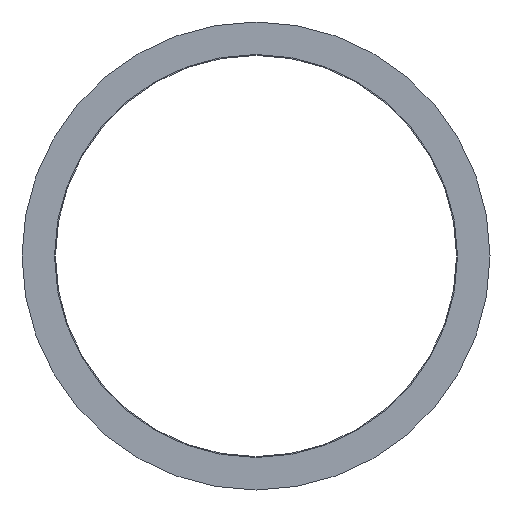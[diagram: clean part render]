
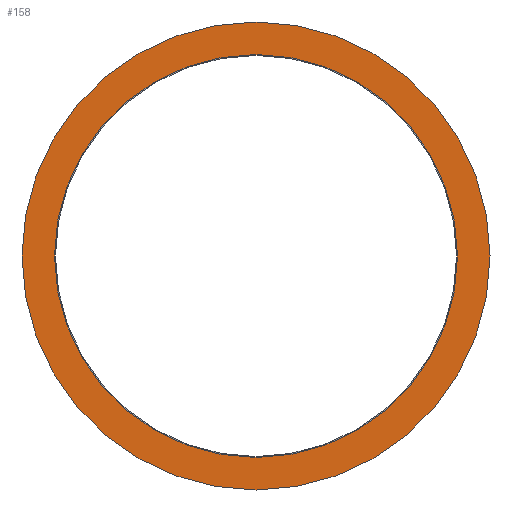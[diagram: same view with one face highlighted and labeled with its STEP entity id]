
A CAD part, left-side view. The second image highlights one B-rep face of the part: STEP entity #158.
In plain terms, the highlighted planar face has unit normal (-1, 0, 0).
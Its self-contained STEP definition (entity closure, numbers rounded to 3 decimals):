
#1 = CARTESIAN_POINT ( 'NONE',  ( -3.767, -0.028, 0. ) ) ;
#8 = DIRECTION ( 'NONE',  ( 0., 0., -1. ) ) ;
#13 = EDGE_CURVE ( 'NONE', #39, #128, #291, .T. ) ;
#18 = DIRECTION ( 'NONE',  ( 1., 0., 0. ) ) ;
#33 = DIRECTION ( 'NONE',  ( 1., 0., 0. ) ) ;
#39 = VERTEX_POINT ( 'NONE', #201 ) ;
#51 = DIRECTION ( 'NONE',  ( 1., 0., 0. ) ) ;
#61 = AXIS2_PLACEMENT_3D ( 'NONE', #300, #33, #373 ) ;
#67 = DIRECTION ( 'NONE',  ( 1., 0., 0. ) ) ;
#68 = CARTESIAN_POINT ( 'NONE',  ( -3.767, -0.028, 0. ) ) ;
#84 = CARTESIAN_POINT ( 'NONE',  ( -3.767, -0.028, 0. ) ) ;
#90 = EDGE_CURVE ( 'NONE', #197, #105, #407, .T. ) ;
#105 = VERTEX_POINT ( 'NONE', #147 ) ;
#111 = ORIENTED_EDGE ( 'NONE', *, *, #90, .T. ) ;
#112 = FACE_OUTER_BOUND ( 'NONE', #163, .T. ) ;
#121 = EDGE_CURVE ( 'NONE', #105, #197, #302, .T. ) ;
#123 = CARTESIAN_POINT ( 'NONE',  ( -3.767, -0.028, 0. ) ) ;
#128 = VERTEX_POINT ( 'NONE', #131 ) ;
#131 = CARTESIAN_POINT ( 'NONE',  ( -3.767, -0.028, 14. ) ) ;
#133 = EDGE_CURVE ( 'NONE', #128, #39, #262, .T. ) ;
#147 = CARTESIAN_POINT ( 'NONE',  ( -3.767, -0.028, -12.055 ) ) ;
#156 = AXIS2_PLACEMENT_3D ( 'NONE', #84, #310, #178 ) ;
#158 = ADVANCED_FACE ( 'NONE', ( #399, #112 ), #288, .T. ) ;
#163 = EDGE_LOOP ( 'NONE', ( #389, #257 ) ) ;
#178 = DIRECTION ( 'NONE',  ( 0., 0., 1. ) ) ;
#197 = VERTEX_POINT ( 'NONE', #342 ) ;
#201 = CARTESIAN_POINT ( 'NONE',  ( -3.767, -0.028, -14. ) ) ;
#206 = AXIS2_PLACEMENT_3D ( 'NONE', #68, #18, #358 ) ;
#219 = ORIENTED_EDGE ( 'NONE', *, *, #121, .T. ) ;
#253 = DIRECTION ( 'NONE',  ( 0., 0., -1. ) ) ;
#257 = ORIENTED_EDGE ( 'NONE', *, *, #133, .F. ) ;
#262 = CIRCLE ( 'NONE', #206, 14. ) ;
#288 = PLANE ( 'NONE',  #156 ) ;
#291 = CIRCLE ( 'NONE', #374, 14. ) ;
#300 = CARTESIAN_POINT ( 'NONE',  ( -3.767, -0.028, 0. ) ) ;
#302 = CIRCLE ( 'NONE', #403, 12.055 ) ;
#310 = DIRECTION ( 'NONE',  ( -1., 0., 0. ) ) ;
#342 = CARTESIAN_POINT ( 'NONE',  ( -3.767, -0.028, 12.055 ) ) ;
#358 = DIRECTION ( 'NONE',  ( 0., 0., -1. ) ) ;
#373 = DIRECTION ( 'NONE',  ( 0., 0., -1. ) ) ;
#374 = AXIS2_PLACEMENT_3D ( 'NONE', #1, #51, #8 ) ;
#388 = EDGE_LOOP ( 'NONE', ( #219, #111 ) ) ;
#389 = ORIENTED_EDGE ( 'NONE', *, *, #13, .F. ) ;
#399 = FACE_BOUND ( 'NONE', #388, .T. ) ;
#403 = AXIS2_PLACEMENT_3D ( 'NONE', #123, #67, #253 ) ;
#407 = CIRCLE ( 'NONE', #61, 12.055 ) ;
